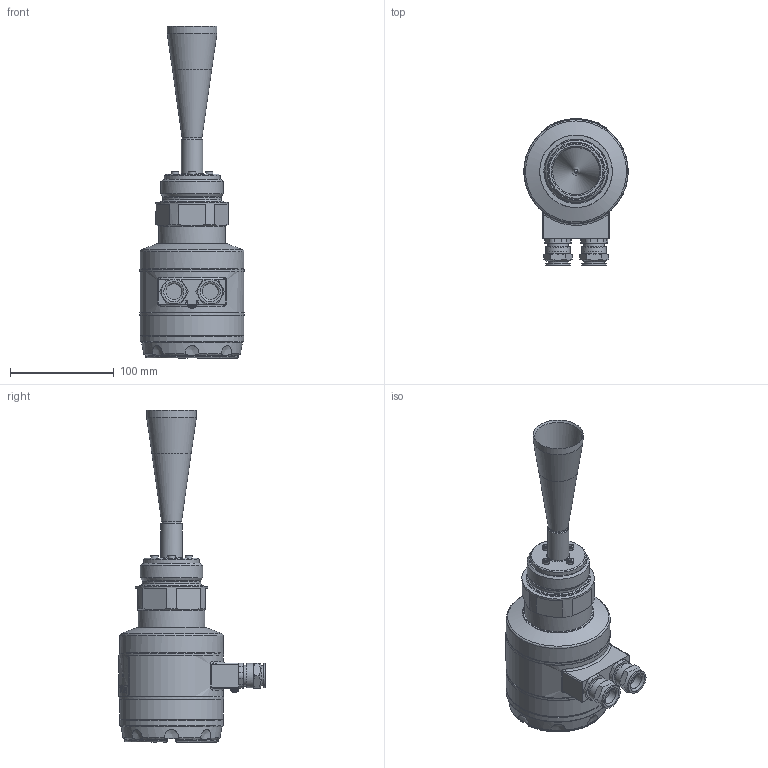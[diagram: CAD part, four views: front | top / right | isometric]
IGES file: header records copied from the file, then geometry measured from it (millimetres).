
Global section: file name: WES_150_Xház,; native system: Autodesk Inventor 2015; preprocessor: unknown; author: aantal; date: 20150713.095558; units: millimetre
Bounding box: 100.51 x 141.49 x 320.16 mm (x, y, z)
Volume: 1104656.3 mm3; surface area: 126230.3 mm2
Topology: 14 solids, 15 shells, 467 faces, 1173 edges, 767 vertices
Faces by surface type: bspline 467
